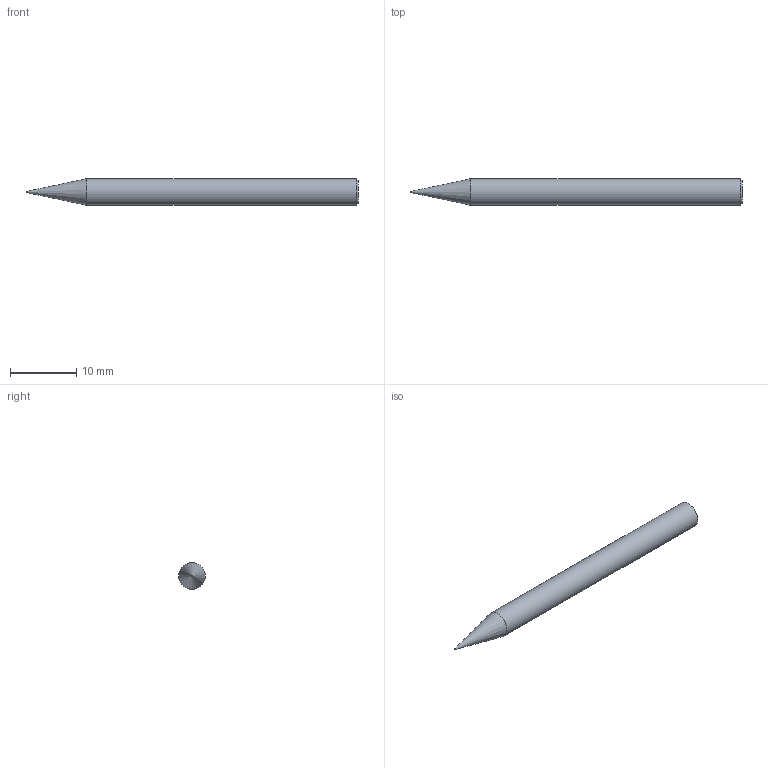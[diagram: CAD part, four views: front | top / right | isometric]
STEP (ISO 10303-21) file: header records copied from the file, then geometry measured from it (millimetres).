
FILE_DESCRIPTION(/* description */ (''),/* implementation_level */ '2;1');
FILE_NAME(/* name */ 'HSXB2002 0450.stp',/* time_stamp */ '2026-08-01T14:38:22+08:00',/* author */ (''),/* organization */ (''),/* preprocessor_version */ 'ST-DEVELOPER v16',/* originating_system */ 'SIEMENS PLM Software NX 10.0',/* authorisation */ '');
FILE_SCHEMA (('CONFIG_CONTROL_DESIGN'));
Length unit declared in the file: millimetre
Products named in the file (1): HSXB2002 0450_dxf
Bounding box: 50 x 4 x 4 mm (x, y, z)
Volume: 552.6 mm3; surface area: 584.9 mm2
Topology: 1 solids, 1 shells, 6 faces, 12 edges, 7 vertices
Faces by surface type: cylinder 2, cone 2, plane 1, sphere 1
Full cylindrical faces by diameter (mm): 0.2 x1, 4 x1
Entity records: 198 total; most frequent: DIRECTION 24, CARTESIAN_POINT 17, AXIS2_PLACEMENT_3D 12, EDGE_LOOP 10, ORIENTED_EDGE 10, FACE_BOUND 8, PERSON_AND_ORGANIZATION 7, ORGANIZATION 7
